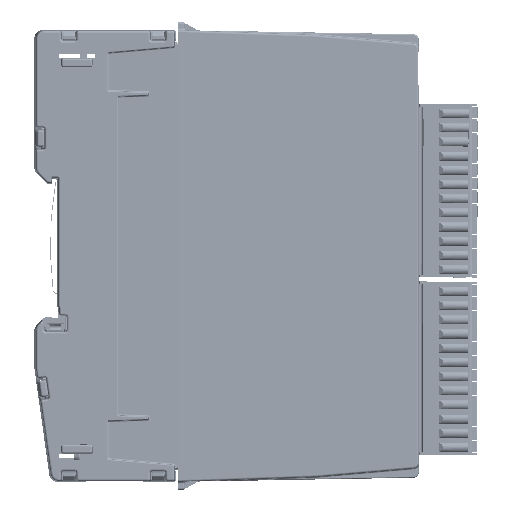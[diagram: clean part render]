
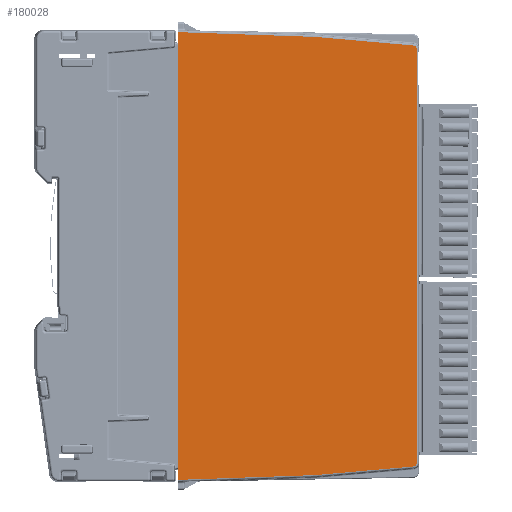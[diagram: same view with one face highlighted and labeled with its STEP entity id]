
A CAD part, left-side view. The second image highlights one B-rep face of the part: STEP entity #180028.
In plain terms, the highlighted planar face has unit normal (-1, -0.018, 0).
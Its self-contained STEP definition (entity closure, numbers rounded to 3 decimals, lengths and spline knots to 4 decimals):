
#2346=ELLIPSE('',#193272,0.0315,0.0315);
#2347=ELLIPSE('',#193273,0.0315,0.0315);
#10009=PLANE('',#193271);
#18094=FACE_OUTER_BOUND('',#28056,.T.);
#28056=EDGE_LOOP('',(#147186,#147187,#147188,#147189,#147190,#147191,#147192,
#147193,#147194,#147195));
#49873=LINE('',#298759,#67646);
#49874=LINE('',#298761,#67647);
#49875=LINE('',#298763,#67648);
#49876=LINE('',#298765,#67649);
#49877=LINE('',#298767,#67650);
#49878=LINE('',#298771,#67651);
#49879=LINE('',#298775,#67652);
#49880=LINE('',#298776,#67653);
#67646=VECTOR('',#229755,39.3701);
#67647=VECTOR('',#229756,39.3701);
#67648=VECTOR('',#229757,39.3701);
#67649=VECTOR('',#229758,39.3701);
#67650=VECTOR('',#229759,39.3701);
#67651=VECTOR('',#229762,39.3701);
#67652=VECTOR('',#229765,39.3701);
#67653=VECTOR('',#229766,39.3701);
#84073=VERTEX_POINT('',#298757);
#84074=VERTEX_POINT('',#298758);
#84075=VERTEX_POINT('',#298760);
#84076=VERTEX_POINT('',#298762);
#84077=VERTEX_POINT('',#298764);
#84078=VERTEX_POINT('',#298766);
#84079=VERTEX_POINT('',#298768);
#84080=VERTEX_POINT('',#298770);
#84081=VERTEX_POINT('',#298772);
#84082=VERTEX_POINT('',#298774);
#106041=EDGE_CURVE('',#84073,#84074,#49873,.T.);
#106042=EDGE_CURVE('',#84075,#84074,#49874,.T.);
#106043=EDGE_CURVE('',#84075,#84076,#49875,.T.);
#106044=EDGE_CURVE('',#84076,#84077,#49876,.T.);
#106045=EDGE_CURVE('',#84077,#84078,#49877,.T.);
#106046=EDGE_CURVE('',#84078,#84079,#2346,.T.);
#106047=EDGE_CURVE('',#84079,#84080,#49878,.T.);
#106048=EDGE_CURVE('',#84080,#84081,#2347,.T.);
#106049=EDGE_CURVE('',#84081,#84082,#49879,.T.);
#106050=EDGE_CURVE('',#84082,#84073,#49880,.T.);
#147186=ORIENTED_EDGE('',*,*,#106041,.T.);
#147187=ORIENTED_EDGE('',*,*,#106042,.F.);
#147188=ORIENTED_EDGE('',*,*,#106043,.T.);
#147189=ORIENTED_EDGE('',*,*,#106044,.T.);
#147190=ORIENTED_EDGE('',*,*,#106045,.T.);
#147191=ORIENTED_EDGE('',*,*,#106046,.T.);
#147192=ORIENTED_EDGE('',*,*,#106047,.T.);
#147193=ORIENTED_EDGE('',*,*,#106048,.T.);
#147194=ORIENTED_EDGE('',*,*,#106049,.T.);
#147195=ORIENTED_EDGE('',*,*,#106050,.T.);
#180028=ADVANCED_FACE('',(#18094),#10009,.T.);
#193271=AXIS2_PLACEMENT_3D('',#298756,#229753,#229754);
#193272=AXIS2_PLACEMENT_3D('',#298769,#229760,#229761);
#193273=AXIS2_PLACEMENT_3D('',#298773,#229763,#229764);
#229753=DIRECTION('center_axis',(-1.,-0.017,
0.));
#229754=DIRECTION('ref_axis',(-0.017,1.,0.));
#229755=DIRECTION('',(0.,0.,-1.));
#229756=DIRECTION('',(0.,0.,1.));
#229757=DIRECTION('',(0.,0.,-1.));
#229758=DIRECTION('',(0.017,-0.999,0.035));
#229759=DIRECTION('',(0.017,-0.996,0.087));
#229760=DIRECTION('center_axis',(-1.,-0.017,
0.));
#229761=DIRECTION('ref_axis',(0.017,-1.,0.));
#229762=DIRECTION('',(0.,0.,1.));
#229763=DIRECTION('center_axis',(-1.,-0.017,
0.));
#229764=DIRECTION('ref_axis',(0.017,-1.,0.));
#229765=DIRECTION('',(-0.017,0.996,0.087));
#229766=DIRECTION('',(-0.017,0.999,0.035));
#298756=CARTESIAN_POINT('Origin',(-0.0296,-0.489,
-2.0669));
#298757=CARTESIAN_POINT('',(-0.0227,-0.8827,0.1083));
#298758=CARTESIAN_POINT('',(-0.0227,-0.8827,-0.0312));
#298759=CARTESIAN_POINT('',(-0.0227,-0.8827,0.128));
#298760=CARTESIAN_POINT('',(-0.0227,-0.8827,-4.1027));
#298761=CARTESIAN_POINT('',(-0.0227,-0.8827,-7.5932));
#298762=CARTESIAN_POINT('',(-0.0227,-0.8827,-4.2421));
#298763=CARTESIAN_POINT('',(-0.0227,-0.8827,0.128));
#298764=CARTESIAN_POINT('',(0.0007,-2.2205,-4.1954));
#298765=CARTESIAN_POINT('',(-0.0282,-0.5654,-4.2532));
#298766=CARTESIAN_POINT('',(0.0174,-3.1772,-4.1117));
#298767=CARTESIAN_POINT('',(-0.0261,-0.6869,-4.3296));
#298768=CARTESIAN_POINT('',(0.0179,-3.2059,-4.0803));
#298769=CARTESIAN_POINT('Origin',(0.0173,-3.1744,
-4.0803));
#298770=CARTESIAN_POINT('',(0.0179,-3.2059,-0.0535));
#298771=CARTESIAN_POINT('',(0.0179,-3.2059,-0.0535));
#298772=CARTESIAN_POINT('',(0.0174,-3.1772,-0.0221));
#298773=CARTESIAN_POINT('Origin',(0.0173,-3.1744,
-0.0535));
#298774=CARTESIAN_POINT('',(0.0007,-2.2205,0.0616));
#298775=CARTESIAN_POINT('',(-0.0261,-0.6869,0.1957));
#298776=CARTESIAN_POINT('',(-0.0282,-0.5654,0.1194));
